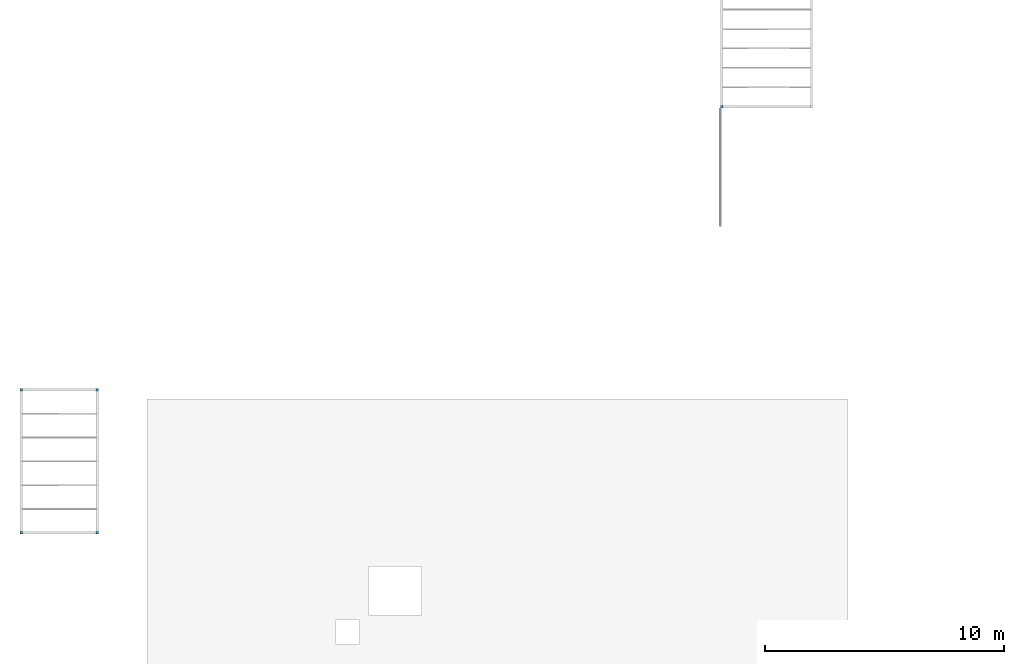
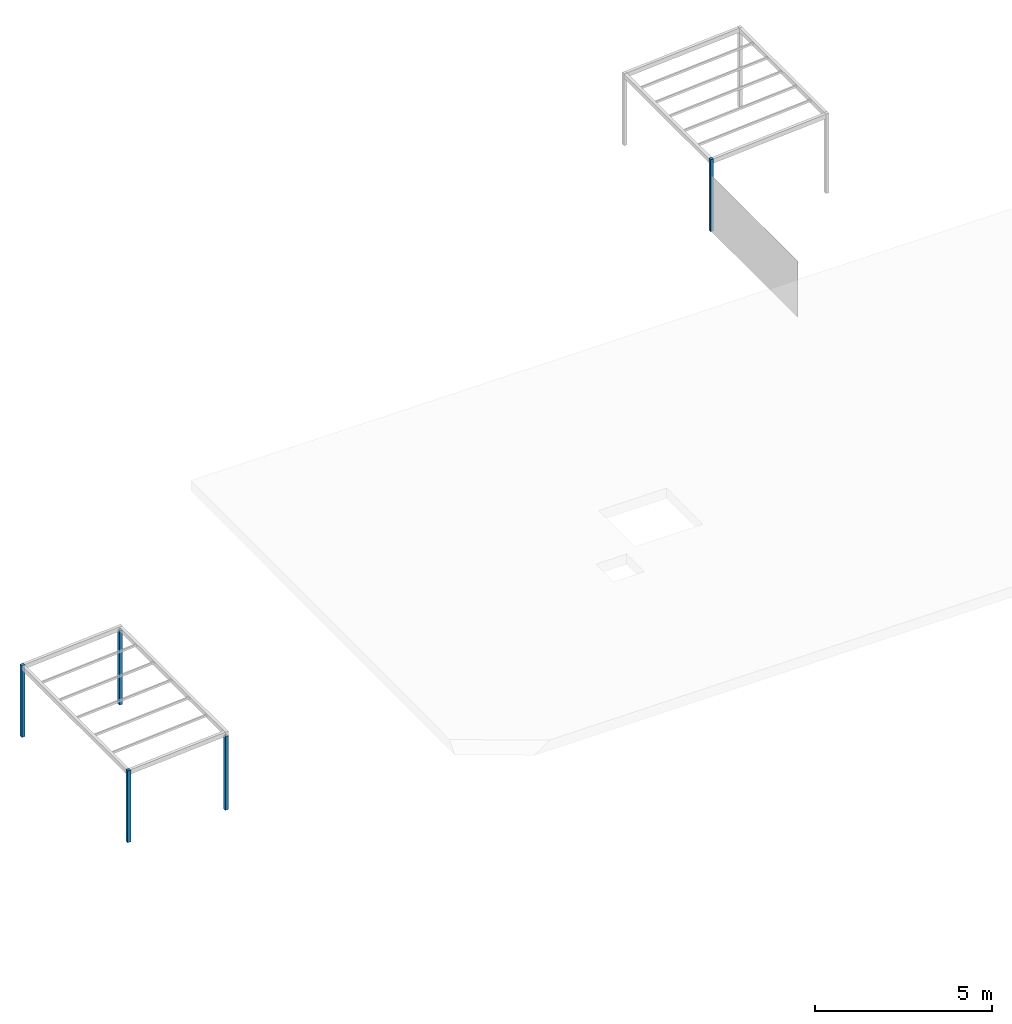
# One storey, part 1 of 4: 5 columns.
"""IFC2X3 building model written with IfcOpenShell, lengths in metres."""

from ifc_helpers import new_model, entity, si_unit, converted_unit, derived_unit, money_unit, direction, frame, origin_with_axes, origin_2d_with_axis, place, context, subcontext, project, spatial, rectangle, extrude, material, type_object, element, save


model = new_model("IFC2X3")

# Units and contexts
model_context = context("Model", 3, precision=1e-05, world=origin_with_axes(), true_north=direction((0.0, 1.0)))
body_context = subcontext(model_context, "Body", "Model", "MODEL_VIEW")
ifc_project = project(units=[si_unit("LENGTHUNIT", "METRE"), si_unit("AREAUNIT", "SQUARE_METRE"), si_unit("VOLUMEUNIT", "CUBIC_METRE"), converted_unit("PLANEANGLEUNIT", "DEGREE", entity("IfcPlaneAngleMeasure", 0.0174532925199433), si_unit("PLANEANGLEUNIT", "RADIAN"), dimensions=[0, 0, 0, 0, 0, 0, 0]), money_unit("EUR"), converted_unit("TIMEUNIT", "Year", entity("IfcTimeMeasure", 31557600.0), si_unit("TIMEUNIT", "SECOND"), dimensions=[0, 0, 1, 0, 0, 0, 0]), si_unit("MASSUNIT", "GRAM", prefix="KILO"), si_unit("THERMODYNAMICTEMPERATUREUNIT", "DEGREE_CELSIUS"), si_unit("LUMINOUSINTENSITYUNIT", "LUMEN"), si_unit("ENERGYUNIT", "JOULE", prefix="MEGA"), derived_unit("THERMALCONDUCTANCEUNIT", [(si_unit("POWERUNIT", "WATT"), 1), (si_unit("LENGTHUNIT", "METRE"), -1), (si_unit("THERMODYNAMICTEMPERATUREUNIT", "KELVIN"), -1)]), derived_unit("SPECIFICHEATCAPACITYUNIT", [(si_unit("ENERGYUNIT", "JOULE"), 1), (si_unit("MASSUNIT", "GRAM", prefix="KILO"), -1), (si_unit("THERMODYNAMICTEMPERATUREUNIT", "KELVIN"), -1)]), derived_unit("MASSDENSITYUNIT", [(si_unit("MASSUNIT", "GRAM", prefix="KILO"), 1), (si_unit("VOLUMEUNIT", "CUBIC_METRE"), -1)])], contexts=[model_context])

# Site, building, storey
site_placement = place(None, origin_with_axes())
site = spatial("IfcSite", under=ifc_project, at=site_placement, Name="Site", CompositionType="ELEMENT")
building_placement = place(site_placement, origin_with_axes())
building = spatial("IfcBuilding", under=site, at=building_placement, Name="Bâtiment", CompositionType="ELEMENT")
storey_placement = place(building_placement, frame((0.0, 0.0, 10.12), z_axis=(0.0, 0.0, 1.0), x_axis=(1.0, 0.0, 0.0)))
storey = spatial("IfcBuildingStorey", under=building, at=storey_placement, Name="Toiture", CompositionType="ELEMENT", Elevation=10.12)

# Columns
ifc_material = material(Name="Aluminium")
column_type = type_object("IfcColumnType", Name="Aluminium 100 x 100", PredefinedType="NOTDEFINED")
column_1_placement = place(storey_placement, frame((19.64560654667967, -10.68844172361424, -10.12), z_axis=(0.0, 0.0, 1.0), x_axis=(1.0, 0.0, 0.0)))
element("IfcColumn", 1, at=column_1_placement, inside=storey, type_object=column_type, material=ifc_material, Name="PotB-010", context=body_context, shape_type="SweptSolid", body=[
    extrude(rectangle(XDim=0.1, YDim=0.1, at=origin_2d_with_axis()), origin_with_axes(), (0.0, 0.0, 1.0), 2.48),
])
column_2_placement = place(storey_placement, frame((22.83346265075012, -10.68844172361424, -10.12), z_axis=(0.0, 0.0, 1.0), x_axis=(1.0, 0.0, 0.0)))
element("IfcColumn", 2, at=column_2_placement, inside=storey, type_object=column_type, material=ifc_material, Name="PotB-010", context=body_context, shape_type="SweptSolid", body=[
    extrude(rectangle(XDim=0.1, YDim=0.1, at=origin_2d_with_axis()), origin_with_axes(), (0.0, 0.0, 1.0), 2.559782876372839),
])
column_3_placement = place(storey_placement, frame((22.83346265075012, -16.68056212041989, -10.12), z_axis=(0.0, 0.0, 1.0), x_axis=(1.0, 0.0, 0.0)))
element("IfcColumn", 3, at=column_3_placement, inside=storey, type_object=column_type, material=ifc_material, Name="PotB-010", context=body_context, shape_type="SweptSolid", body=[
    extrude(rectangle(XDim=0.1, YDim=0.1, at=origin_2d_with_axis()), origin_with_axes(), (0.0, 0.0, 1.0), 2.552782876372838),
])
column_4_placement = place(storey_placement, frame((19.64560654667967, -16.68056212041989, -10.12), z_axis=(0.0, 0.0, 1.0), x_axis=(1.0, 0.0, 0.0)))
element("IfcColumn", 4, at=column_4_placement, inside=storey, type_object=column_type, material=ifc_material, Name="PotB-010", context=body_context, shape_type="SweptSolid", body=[
    extrude(rectangle(XDim=0.1, YDim=0.1, at=origin_2d_with_axis()), origin_with_axes(), (0.0, 0.0, 1.0), 2.48),
])
column_5_placement = place(storey_placement, frame((48.98535477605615, 1.164200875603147, -10.12), z_axis=(0.0, 0.0, 1.0), x_axis=(1.0, 0.0, 0.0)))
element("IfcColumn", 5, at=column_5_placement, inside=storey, type_object=column_type, material=ifc_material, Name="PotB-010", context=body_context, shape_type="SweptSolid", body=[
    extrude(rectangle(XDim=0.1, YDim=0.1, at=origin_2d_with_axis()), origin_with_axes(), (0.0, 0.0, 1.0), 2.486999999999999),
])

save(model, "model.ifc")
